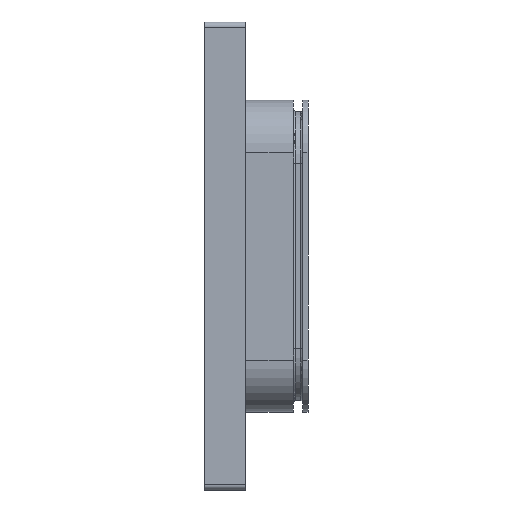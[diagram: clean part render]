
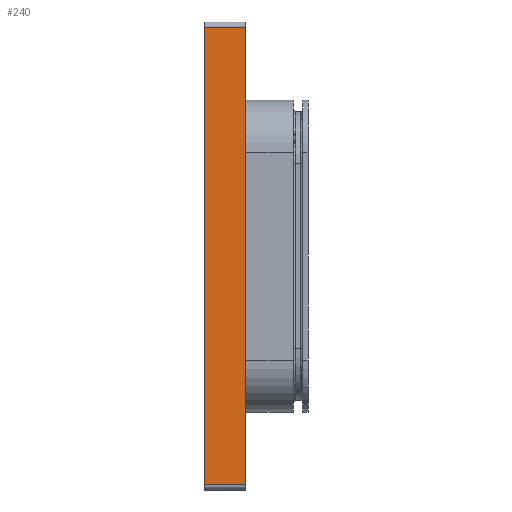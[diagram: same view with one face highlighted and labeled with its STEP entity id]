
A CAD part, front view. The second image highlights one B-rep face of the part: STEP entity #240.
In plain terms, the highlighted planar face has unit normal (0, -1, 0).
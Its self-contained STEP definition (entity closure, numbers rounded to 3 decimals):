
#240=ADVANCED_FACE('',(#344),#1114,.T.);
#344=FACE_OUTER_BOUND('',#478,.F.);
#478=EDGE_LOOP('',(#725,#726,#727,#728));
#725=ORIENTED_EDGE('',*,*,#2024,.F.);
#726=ORIENTED_EDGE('',*,*,#2010,.F.);
#727=ORIENTED_EDGE('',*,*,#2020,.T.);
#728=ORIENTED_EDGE('',*,*,#2015,.T.);
#1114=PLANE('',#2710);
#1724=LINE('',#3709,#1834);
#1729=LINE('',#3714,#1839);
#1734=LINE('',#3719,#1844);
#1738=LINE('',#3723,#1848);
#1834=VECTOR('',#2965,4.);
#1839=VECTOR('',#2970,4.);
#1844=VECTOR('',#2975,44.);
#1848=VECTOR('',#2979,44.);
#2010=EDGE_CURVE('',#2504,#2507,#1724,.T.);
#2015=EDGE_CURVE('',#2497,#2498,#1729,.T.);
#2020=EDGE_CURVE('',#2504,#2497,#1734,.T.);
#2024=EDGE_CURVE('',#2507,#2498,#1738,.T.);
#2497=VERTEX_POINT('',#3600);
#2498=VERTEX_POINT('',#3601);
#2504=VERTEX_POINT('',#3607);
#2507=VERTEX_POINT('',#3610);
#2710=AXIS2_PLACEMENT_3D('',#3894,#3257,#3258);
#2965=DIRECTION('',(-1.,0.,0.));
#2970=DIRECTION('',(-1.,0.,0.));
#2975=DIRECTION('',(0.,0.,-1.));
#2979=DIRECTION('',(0.,0.,-1.));
#3257=DIRECTION('',(0.,-1.,0.));
#3258=DIRECTION('',(0.,0.,-1.));
#3600=CARTESIAN_POINT('',(-194.25,413.,-278.75));
#3601=CARTESIAN_POINT('',(-198.25,413.,-278.75));
#3607=CARTESIAN_POINT('',(-194.25,413.,-234.75));
#3610=CARTESIAN_POINT('',(-198.25,413.,-234.75));
#3709=CARTESIAN_POINT('',(-194.25,413.,-234.75));
#3714=CARTESIAN_POINT('',(-194.25,413.,-278.75));
#3719=CARTESIAN_POINT('',(-194.25,413.,-234.75));
#3723=CARTESIAN_POINT('',(-198.25,413.,-234.75));
#3894=CARTESIAN_POINT('',(-198.7,413.,-233.8));
